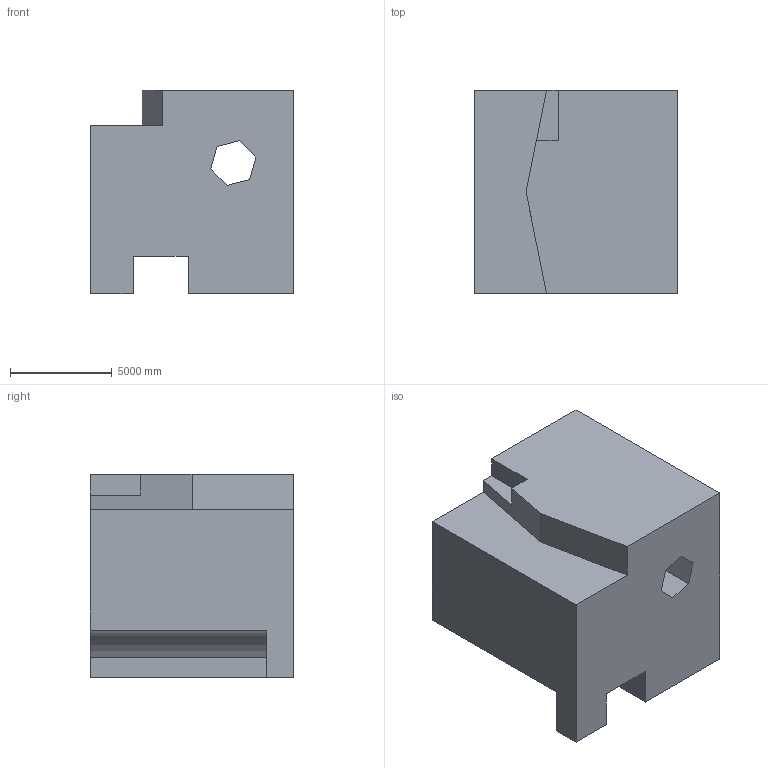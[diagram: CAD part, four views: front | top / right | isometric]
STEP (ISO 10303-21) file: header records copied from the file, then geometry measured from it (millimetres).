
FILE_DESCRIPTION (( 'STEP AP203' ), '1' );
FILE_NAME ('1550.STEP', '2022-08-18T15:44:16', ( 'user' ), ( '' ), 'SwSTEP 2.0', 'SolidWorks 2021', '' );
FILE_SCHEMA (( 'CONFIG_CONTROL_DESIGN' ));
Length unit declared in the file: centimetre
Products named in the file (1): 1550
Bounding box: 10000 x 10000 x 10000 mm (x, y, z)
Volume: 820655538371 mm3; surface area: 651602602.3 mm2
Topology: 1 solids, 1 shells, 26 faces, 72 edges, 48 vertices
Faces by surface type: plane 24, cylinder 2
Entity records: 901 total; most frequent: CARTESIAN_POINT 147, ORIENTED_EDGE 144, DIRECTION 130, EDGE_CURVE 72, LINE 68, VECTOR 68, VERTEX_POINT 48, AXIS2_PLACEMENT_3D 31
